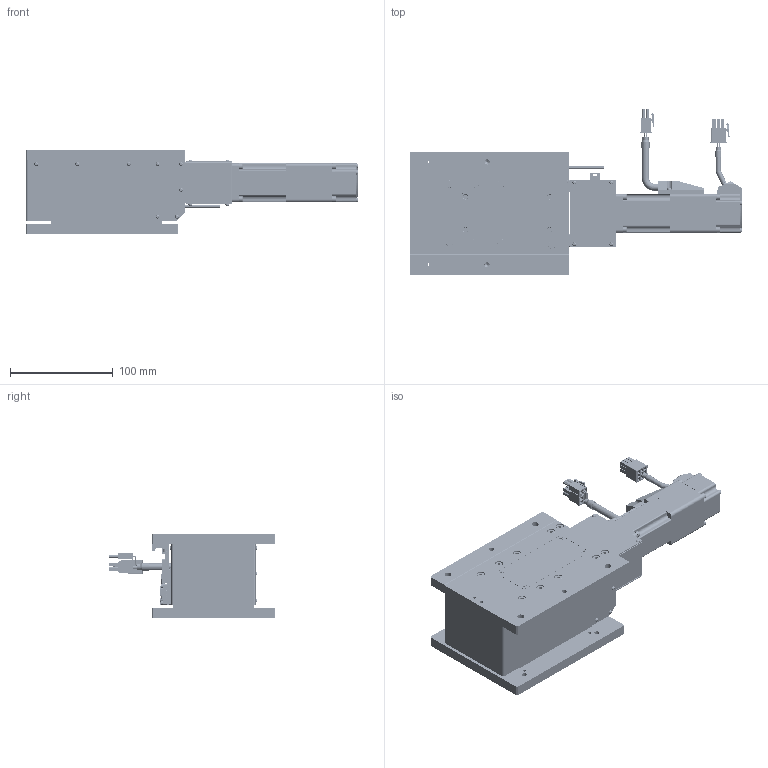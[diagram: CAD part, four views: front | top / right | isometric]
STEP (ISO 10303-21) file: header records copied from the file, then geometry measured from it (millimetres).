
FILE_DESCRIPTION (( 'STEP AP214' ), '1' );
FILE_NAME ('µç¶¯ZÖáTZA12010E-L2-P10.STEP', '2025-01-06T11:20:33', ( '' ), ( '' ), 'SwSTEP 2.0', 'SolidWorks 2020', '' );
FILE_SCHEMA (( 'AUTOMOTIVE_DESIGN' ));
Length unit declared in the file: millimetre
Products named in the file (1): 萇雄Z粣TZA12010E-L2-P10
Bounding box: 323.17 x 161.74 x 82 mm (x, y, z)
Volume: 977647.8 mm3; surface area: 321322.3 mm2
Topology: 141 solids, 141 shells, 5702 faces, 13923 edges, 8796 vertices
Faces by surface type: plane 3125, cylinder 1425, cone 700, torus 335, bspline 105, sphere 12
Entity records: 234491 total; most frequent: CARTESIAN_POINT 35254, DIRECTION 28133, ORIENTED_EDGE 27554, EDGE_CURVE 13777, AXIS2_PLACEMENT_3D 9847, VERTEX_POINT 8796, LINE 8439, VECTOR 8439
